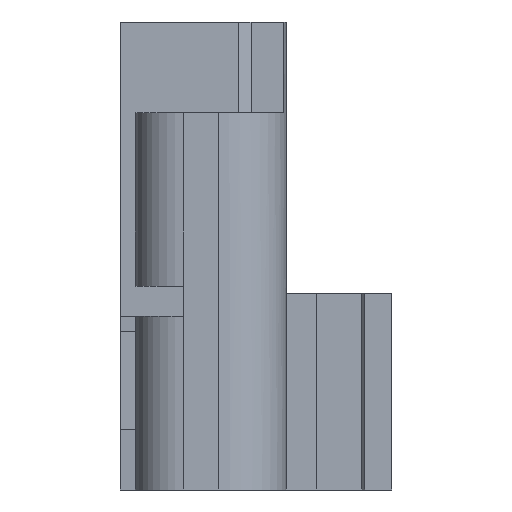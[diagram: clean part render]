
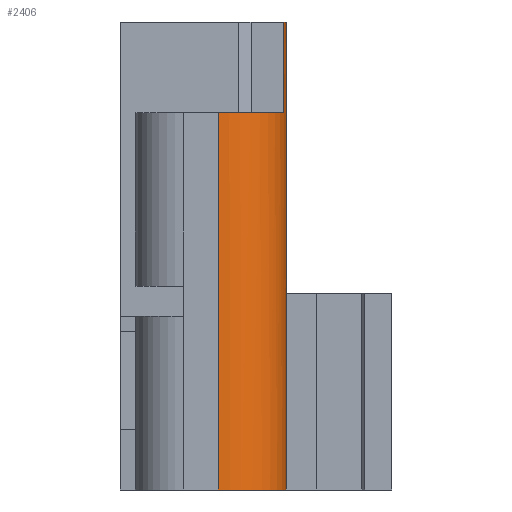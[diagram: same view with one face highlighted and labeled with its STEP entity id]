
A CAD part, left-side view. The second image highlights one B-rep face of the part: STEP entity #2406.
In plain terms, the highlighted cylindrical face has radius 4.5 mm (diameter 9 mm), a partial arc.
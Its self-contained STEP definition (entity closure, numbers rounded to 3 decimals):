
#295 = EDGE_CURVE ( 'NONE', #2434, #2058, #3976, .T. ) ;
#332 = EDGE_CURVE ( 'NONE', #2049, #2058, #4045, .T. ) ;
#358 = EDGE_CURVE ( 'NONE', #2433, #2220, #4076, .T. ) ;
#450 = EDGE_CURVE ( 'NONE', #2433, #2434, #4232, .T. ) ;
#640 = EDGE_CURVE ( 'NONE', #2048, #2049, #4518, .T. ) ;
#756 = EDGE_CURVE ( 'NONE', #2220, #2048, #5376, .T. ) ;
#829 = AXIS2_PLACEMENT_3D ( 'NONE', #5245, #5234, #5237 ) ;
#939 = AXIS2_PLACEMENT_3D ( 'NONE', #1611, #1612, #1613 ) ;
#972 = AXIS2_PLACEMENT_3D ( 'NONE', #4854, #4864, #4865 ) ;
#989 = AXIS2_PLACEMENT_3D ( 'NONE', #1273, #1277, #1278 ) ;
#1273 = CARTESIAN_POINT ( 'NONE',  ( -95.5, 8.25, 25. ) ) ;
#1277 = DIRECTION ( 'NONE',  ( 0., 0., -1. ) ) ;
#1278 = DIRECTION ( 'NONE',  ( 1., 0., 0. ) ) ;
#1524 = CARTESIAN_POINT ( 'NONE',  ( -100., 8.25, 25.642 ) ) ;
#1531 = DIRECTION ( 'NONE',  ( 0., 0., -1. ) ) ;
#1611 = CARTESIAN_POINT ( 'NONE',  ( -95.5, 8.25, 0. ) ) ;
#1612 = DIRECTION ( 'NONE',  ( 0., 0., -1. ) ) ;
#1613 = DIRECTION ( 'NONE',  ( 1., 0., 0. ) ) ;
#1659 = CARTESIAN_POINT ( 'NONE',  ( -96.64, 3.897, -500002. ) ) ;
#1662 = DIRECTION ( 'NONE',  ( 0., 0., 1. ) ) ;
#2048 = VERTEX_POINT ( 'NONE', #4974 ) ;
#2049 = VERTEX_POINT ( 'NONE', #4975 ) ;
#2058 = VERTEX_POINT ( 'NONE', #4984 ) ;
#2220 = VERTEX_POINT ( 'NONE', #5146 ) ;
#2406 = ADVANCED_FACE ( 'NONE', ( #5461 ), #5463, .T. ) ;
#2433 = VERTEX_POINT ( 'NONE', #5301 ) ;
#2434 = VERTEX_POINT ( 'NONE', #5302 ) ;
#2768 = CARTESIAN_POINT ( 'NONE',  ( -95.5, 3.75, 25.642 ) ) ;
#2769 = DIRECTION ( 'NONE',  ( 0., 0., -1. ) ) ;
#3019 = EDGE_LOOP ( 'NONE', ( #3464, #3465, #3466, #3467, #3468, #3469 ) ) ;
#3464 = ORIENTED_EDGE ( 'NONE', *, *, #640, .F. ) ;
#3465 = ORIENTED_EDGE ( 'NONE', *, *, #756, .F. ) ;
#3466 = ORIENTED_EDGE ( 'NONE', *, *, #358, .F. ) ;
#3467 = ORIENTED_EDGE ( 'NONE', *, *, #450, .T. ) ;
#3468 = ORIENTED_EDGE ( 'NONE', *, *, #295, .T. ) ;
#3469 = ORIENTED_EDGE ( 'NONE', *, *, #332, .F. ) ;
#3972 = VECTOR ( 'NONE', #1531, 1000. ) ;
#3976 = LINE ( 'NONE', #1524, #3972 ) ;
#4045 = CIRCLE ( 'NONE', #939, 4.5 ) ;
#4076 = LINE ( 'NONE', #1659, #4084 ) ;
#4084 = VECTOR ( 'NONE', #1662, 1000. ) ;
#4232 = CIRCLE ( 'NONE', #989, 4.5 ) ;
#4518 = LINE ( 'NONE', #2768, #4520 ) ;
#4520 = VECTOR ( 'NONE', #2769, 1000. ) ;
#4854 = CARTESIAN_POINT ( 'NONE',  ( -95.5, 8.25, 31. ) ) ;
#4864 = DIRECTION ( 'NONE',  ( 0., 0., 1. ) ) ;
#4865 = DIRECTION ( 'NONE',  ( -1., 0., 0. ) ) ;
#4974 = CARTESIAN_POINT ( 'NONE',  ( -95.5, 3.75, 31. ) ) ;
#4975 = CARTESIAN_POINT ( 'NONE',  ( -95.5, 3.75, 0. ) ) ;
#4984 = CARTESIAN_POINT ( 'NONE',  ( -100., 8.25, 0. ) ) ;
#5146 = CARTESIAN_POINT ( 'NONE',  ( -96.64, 3.897, 31. ) ) ;
#5234 = DIRECTION ( 'NONE',  ( 0., 0., -1. ) ) ;
#5237 = DIRECTION ( 'NONE',  ( 1., 0., 0. ) ) ;
#5245 = CARTESIAN_POINT ( 'NONE',  ( -95.5, 8.25, 25.642 ) ) ;
#5301 = CARTESIAN_POINT ( 'NONE',  ( -96.64, 3.897, 25. ) ) ;
#5302 = CARTESIAN_POINT ( 'NONE',  ( -100., 8.25, 25. ) ) ;
#5376 = CIRCLE ( 'NONE', #972, 4.5 ) ;
#5461 = FACE_OUTER_BOUND ( 'NONE', #3019, .T. ) ;
#5463 = CYLINDRICAL_SURFACE ( 'NONE', #829, 4.5 ) ;
